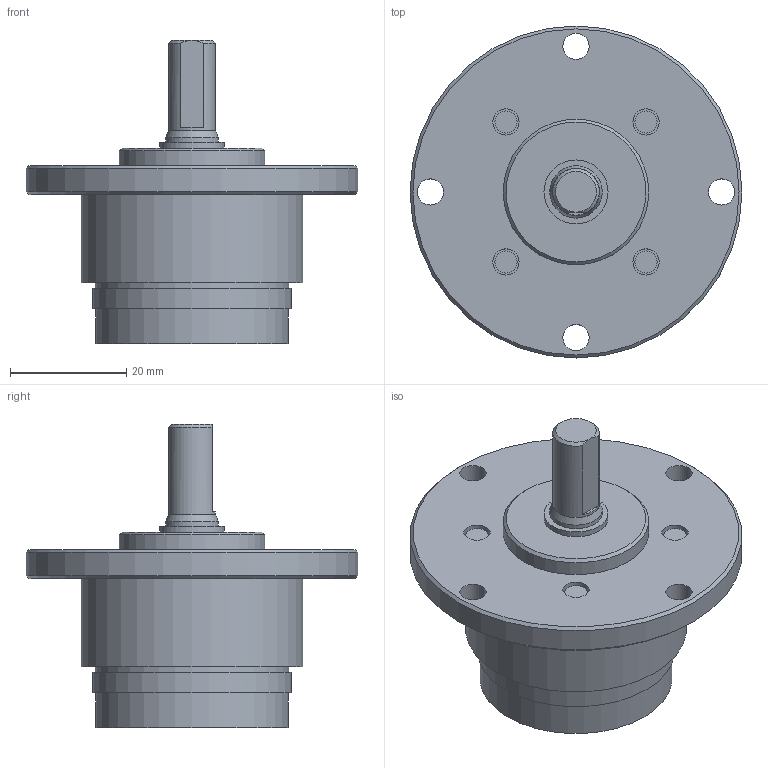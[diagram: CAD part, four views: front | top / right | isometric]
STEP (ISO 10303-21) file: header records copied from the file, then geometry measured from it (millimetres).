
FILE_DESCRIPTION(/* description */ (''),/* implementation_level */ '2;1');
FILE_NAME(/* name */ '38-1_2.stp',/* time_stamp */ '2016-09-15T17:38:26+02:00',/* author */ ('DR. FRITZ FAULHABER GmbH & Co. KG'),/* organization */ ('DR. FRITZ FAULHABER GmbH & Co. KG'),/* preprocessor_version */ 'ST-DEVELOPER v16',/* originating_system */ 'SIEMENS PLM Software NX 10.0',/* authorisation */ '');
FILE_SCHEMA (('AUTOMOTIVE_DESIGN { 1 0 10303 214 3 1 1 1 }'));
Length unit declared in the file: millimetre
Products named in the file (1): huge1AD871C9jgy6
Bounding box: 57 x 57 x 52.1 mm (x, y, z)
Volume: 40482.6 mm3; surface area: 10162.1 mm2
Topology: 1 solids, 1 shells, 54 faces, 99 edges, 67 vertices
Faces by surface type: cylinder 25, plane 24, cone 5
Full cylindrical faces by diameter (mm): 3.8 x4, 4.5 x8, 8 x1, 9 x1, 11 x1, 11.8 x1, 12 x1, 25 x1, 26.9 x1, 27.57 x1, 33 x1, 33.2 x1, 34 x1, 38 x1, 57 x1
Entity records: 1190 total; most frequent: DIRECTION 225, CARTESIAN_POINT 183, ORIENTED_EDGE 122, EDGE_LOOP 111, AXIS2_PLACEMENT_3D 111, FACE_BOUND 102, EDGE_CURVE 61, VERTEX_POINT 58
